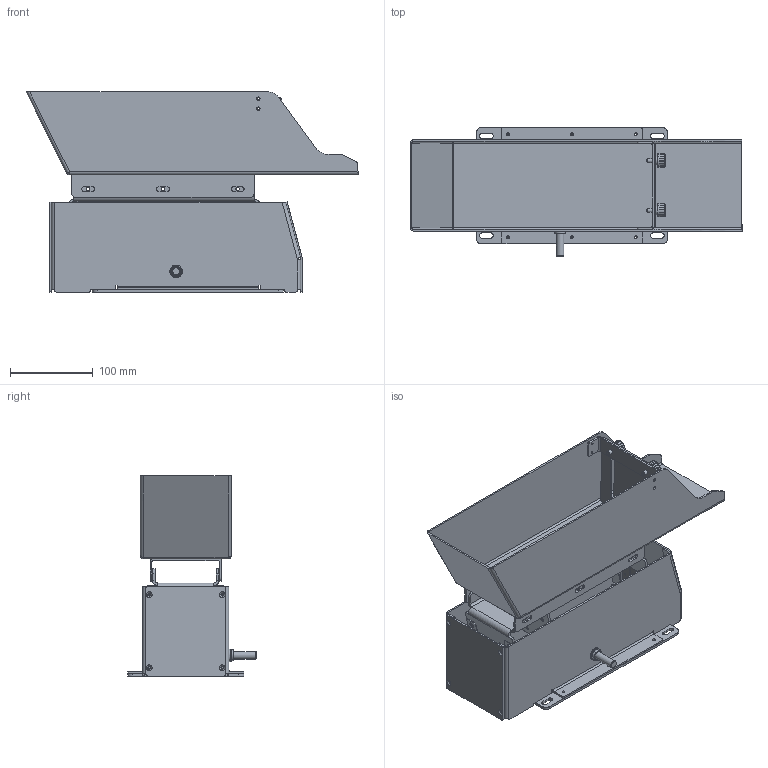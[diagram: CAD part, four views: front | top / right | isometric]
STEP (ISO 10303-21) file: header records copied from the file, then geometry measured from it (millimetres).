
FILE_DESCRIPTION(/* description */ (''),/* implementation_level */ '2;1');
FILE_NAME(/* name */ 'UniHopper2.0_share.stp',/* time_stamp */ '2026-06-10T14:33:07+09:00',/* author */ ('houns'),/* organization */ (''),/* preprocessor_version */ 'ST-DEVELOPER v20',/* originating_system */ 'Autodesk Inventor 2024',/* authorisation */ '');
FILE_SCHEMA (('AUTOMOTIVE_DESIGN { 1 0 10303 214 3 1 1 }'));
Length unit declared in the file: millimetre
Products named in the file (14): UniHopper2.0_share; Ho2-13_Block; Ho2-15_SideCover; Ho2-15_SideCover_MIR.ipt; Ho3-16_SideCover; Ho2-17_SideCover; Ho3-14_Block; Ho2-01; Ho2-19_Hopper inner; NBMP5-16-10-B; Ho2-18_Hopper inner; Ho2-12_Block; Ho3-01_0.1; PRC커넥터2
Assembly tree (18 placements, depth 2):
  UniHopper2.0_share
    Ho3-01_0.1  x4
    Ho2-13_Block
    Ho2-15_SideCover
    Ho2-15_SideCover_MIR.ipt
    Ho3-16_SideCover
    Ho2-17_SideCover
    Ho3-14_Block
    Ho2-01
    Ho2-19_Hopper inner
    NBMP5-16-10-B  x2
    Ho2-18_Hopper inner
    Ho2-12_Block
    PRC커넥터2  x2
Bounding box: 400 x 155 x 241.05 mm (x, y, z)
Volume: 731195.3 mm3; surface area: 641514.4 mm2
Topology: 18 solids, 18 shells, 733 faces, 1856 edges, 1194 vertices
Faces by surface type: plane 392, cylinder 319, cone 14, sphere 4, bspline 2, torus 2
Full cylindrical faces by diameter (mm): 1 x4, 2.459 x20, 3 x2, 3.242 x4, 3.3 x16, 4 x4, 4.134 x12, 4.4 x4, 4.5 x2, 4.917 x8, 5 x2, 6 x9, 6.6 x8, 9 x6, 11 x4, 13 x3, 15 x2, 16 x2
Entity records: 20241 total; most frequent: DIRECTION 3555, CARTESIAN_POINT 3398, ORIENTED_EDGE 3240, EDGE_CURVE 1620, AXIS2_PLACEMENT_3D 1277, VERTEX_POINT 1024, LINE 1001, VECTOR 1001
